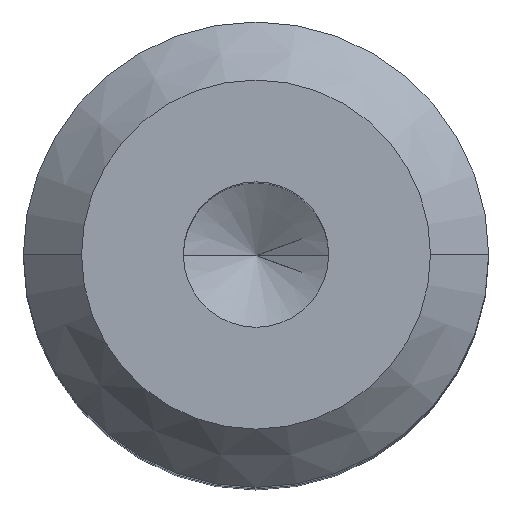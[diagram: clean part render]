
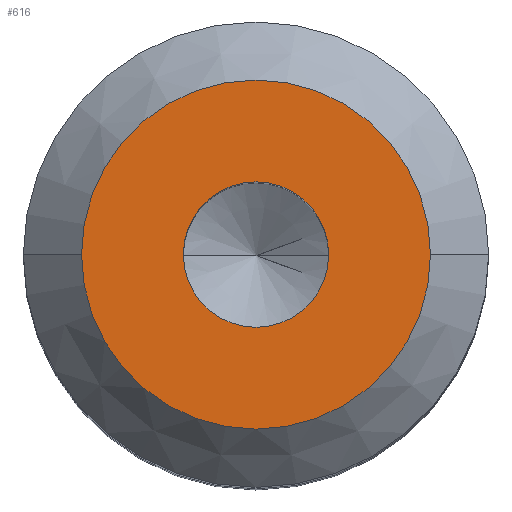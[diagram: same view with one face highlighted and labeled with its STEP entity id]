
A CAD part, top view. The second image highlights one B-rep face of the part: STEP entity #616.
In plain terms, the highlighted planar face has unit normal (0, 0, 1).
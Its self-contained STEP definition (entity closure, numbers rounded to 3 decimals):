
#84 = DIRECTION ( 'NONE',  ( 0., 0., -1. ) ) ;
#107 = VERTEX_POINT ( 'NONE', #789 ) ;
#120 = VERTEX_POINT ( 'NONE', #394 ) ;
#121 = DIRECTION ( 'NONE',  ( 1., 0., 0. ) ) ;
#158 = AXIS2_PLACEMENT_3D ( 'NONE', #184, #248, #721 ) ;
#177 = FACE_OUTER_BOUND ( 'NONE', #461, .T. ) ;
#184 = CARTESIAN_POINT ( 'NONE',  ( 0., 0., 14. ) ) ;
#210 = DIRECTION ( 'NONE',  ( -1., 0., 0. ) ) ;
#213 = EDGE_CURVE ( 'NONE', #107, #120, #772, .T. ) ;
#226 = EDGE_CURVE ( 'NONE', #120, #107, #719, .T. ) ;
#248 = DIRECTION ( 'NONE',  ( 0., 0., 1. ) ) ;
#266 = EDGE_LOOP ( 'NONE', ( #833, #607 ) ) ;
#283 = CARTESIAN_POINT ( 'NONE',  ( 0., 0., 14. ) ) ;
#290 = DIRECTION ( 'NONE',  ( -1., 0., 0. ) ) ;
#324 = DIRECTION ( 'NONE',  ( 0., 0., 1. ) ) ;
#353 = AXIS2_PLACEMENT_3D ( 'NONE', #888, #324, #121 ) ;
#358 = ORIENTED_EDGE ( 'NONE', *, *, #699, .F. ) ;
#394 = CARTESIAN_POINT ( 'NONE',  ( 1.25, 0., 14. ) ) ;
#414 = DIRECTION ( 'NONE',  ( 0., 0., 1. ) ) ;
#429 = ORIENTED_EDGE ( 'NONE', *, *, #880, .F. ) ;
#448 = VERTEX_POINT ( 'NONE', #865 ) ;
#461 = EDGE_LOOP ( 'NONE', ( #429, #358 ) ) ;
#465 = CARTESIAN_POINT ( 'NONE',  ( 3., 0., 14. ) ) ;
#486 = DIRECTION ( 'NONE',  ( 1., 0., 0. ) ) ;
#496 = FACE_BOUND ( 'NONE', #266, .T. ) ;
#509 = DIRECTION ( 'NONE',  ( 0., 0., -1. ) ) ;
#517 = CIRCLE ( 'NONE', #808, 3. ) ;
#607 = ORIENTED_EDGE ( 'NONE', *, *, #213, .F. ) ;
#616 = ADVANCED_FACE ( 'NONE', ( #496, #177 ), #634, .T. ) ;
#634 = PLANE ( 'NONE',  #353 ) ;
#654 = AXIS2_PLACEMENT_3D ( 'NONE', #283, #509, #210 ) ;
#660 = CIRCLE ( 'NONE', #654, 3. ) ;
#699 = EDGE_CURVE ( 'NONE', #448, #988, #660, .T. ) ;
#719 = CIRCLE ( 'NONE', #899, 1.25 ) ;
#721 = DIRECTION ( 'NONE',  ( 1., 0., 0. ) ) ;
#772 = CIRCLE ( 'NONE', #158, 1.25 ) ;
#789 = CARTESIAN_POINT ( 'NONE',  ( -1.25, 0., 14. ) ) ;
#808 = AXIS2_PLACEMENT_3D ( 'NONE', #850, #84, #290 ) ;
#833 = ORIENTED_EDGE ( 'NONE', *, *, #226, .F. ) ;
#850 = CARTESIAN_POINT ( 'NONE',  ( 0., 0., 14. ) ) ;
#865 = CARTESIAN_POINT ( 'NONE',  ( -3., 0., 14. ) ) ;
#880 = EDGE_CURVE ( 'NONE', #988, #448, #517, .T. ) ;
#888 = CARTESIAN_POINT ( 'NONE',  ( -3.9, -6.235, 14. ) ) ;
#889 = CARTESIAN_POINT ( 'NONE',  ( 0., 0., 14. ) ) ;
#899 = AXIS2_PLACEMENT_3D ( 'NONE', #889, #414, #486 ) ;
#988 = VERTEX_POINT ( 'NONE', #465 ) ;
